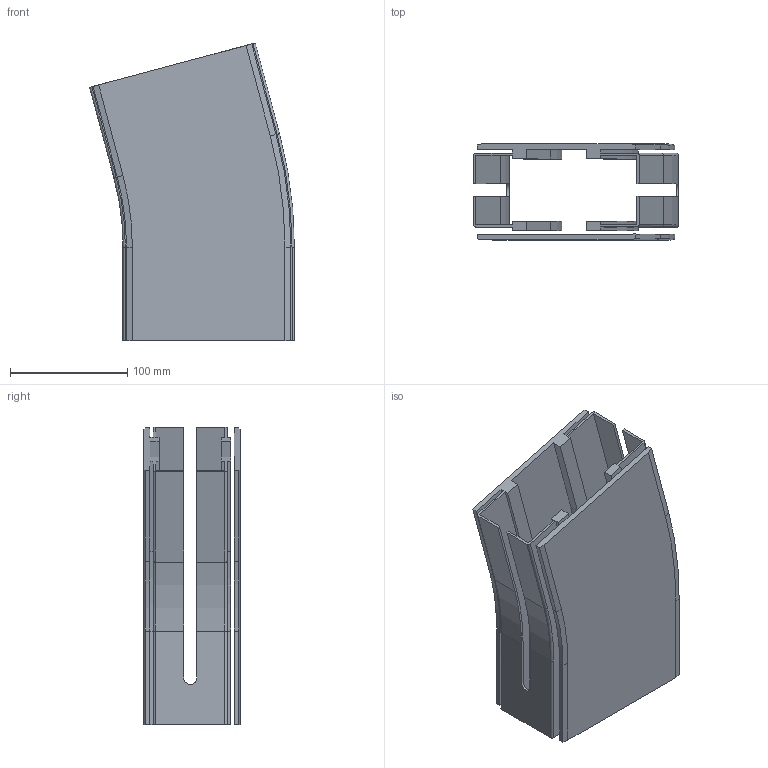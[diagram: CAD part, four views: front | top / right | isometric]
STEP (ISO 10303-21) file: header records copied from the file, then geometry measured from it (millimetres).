
FILE_DESCRIPTION((''),'2;1');
FILE_NAME('C:\Vault Klient\Projekt\Koncept konstruktion\Serie 540 Balk\540-5180.stp','2010-11-24T11:17:06',('Mathias'),(''),'Autodesk Inventor 2011','Autodesk Inventor 2011','');
FILE_SCHEMA(('AUTOMOTIVE_DESIGN { 1 0 10303 214 1 1 1 1 }'));
Length unit declared in the file: millimetre
Products named in the file (1): 540-5180
Bounding box: 174.44 x 82 x 253.81 mm (x, y, z)
Volume: 538370.4 mm3; surface area: 280422.5 mm2
Topology: 2 solids, 2 shells, 159 faces, 434 edges, 284 vertices
Faces by surface type: plane 103, cylinder 32, bspline 14, cone 6, torus 4
Entity records: 5158 total; most frequent: CARTESIAN_POINT 1072, ORIENTED_EDGE 868, DIRECTION 774, EDGE_CURVE 434, VECTOR 330, LINE 330, VERTEX_POINT 284, AXIS2_PLACEMENT_3D 222
